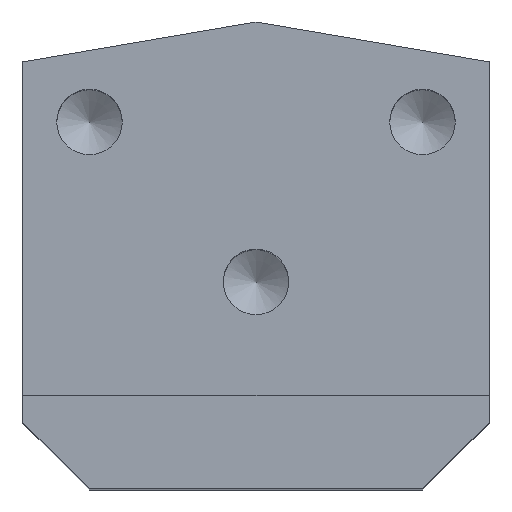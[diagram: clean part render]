
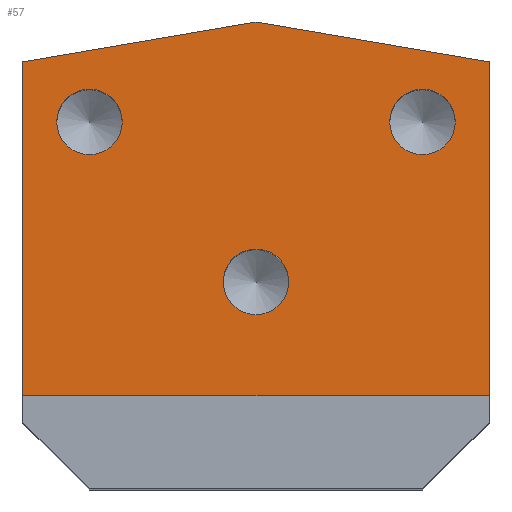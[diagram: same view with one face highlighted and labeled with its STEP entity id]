
A CAD part, top view. The second image highlights one B-rep face of the part: STEP entity #57.
In plain terms, the highlighted planar face has unit normal (0, 0, 1).
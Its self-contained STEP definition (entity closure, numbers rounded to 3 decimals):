
#57 = ADVANCED_FACE( '', ( #125, #126, #127, #128 ), #129, .T. );
#125 = FACE_OUTER_BOUND( '', #210, .T. );
#126 = FACE_BOUND( '', #211, .T. );
#127 = FACE_BOUND( '', #212, .T. );
#128 = FACE_BOUND( '', #213, .T. );
#129 = PLANE( '', #214 );
#210 = EDGE_LOOP( '', ( #314, #315, #316, #317, #318 ) );
#211 = EDGE_LOOP( '', ( #319 ) );
#212 = EDGE_LOOP( '', ( #320 ) );
#213 = EDGE_LOOP( '', ( #321 ) );
#214 = AXIS2_PLACEMENT_3D( '', #322, #323, #324 );
#314 = ORIENTED_EDGE( '', *, *, #459, .T. );
#315 = ORIENTED_EDGE( '', *, *, #460, .T. );
#316 = ORIENTED_EDGE( '', *, *, #434, .T. );
#317 = ORIENTED_EDGE( '', *, *, #461, .F. );
#318 = ORIENTED_EDGE( '', *, *, #448, .T. );
#319 = ORIENTED_EDGE( '', *, *, #457, .T. );
#320 = ORIENTED_EDGE( '', *, *, #462, .T. );
#321 = ORIENTED_EDGE( '', *, *, #463, .T. );
#322 = CARTESIAN_POINT( '', ( 0., 5., 73. ) );
#323 = DIRECTION( '', ( 0., 0., 1. ) );
#324 = DIRECTION( '', ( 1., 0., 0. ) );
#434 = EDGE_CURVE( '', #497, #498, #499, .T. );
#448 = EDGE_CURVE( '', #524, #522, #525, .T. );
#457 = EDGE_CURVE( '', #537, #537, #538, .T. );
#459 = EDGE_CURVE( '', #522, #540, #541, .F. );
#460 = EDGE_CURVE( '', #540, #497, #542, .F. );
#461 = EDGE_CURVE( '', #524, #498, #543, .T. );
#462 = EDGE_CURVE( '', #544, #544, #545, .T. );
#463 = EDGE_CURVE( '', #546, #546, #547, .T. );
#497 = VERTEX_POINT( '', #583 );
#498 = VERTEX_POINT( '', #584 );
#499 = LINE( '', #585, #586 );
#522 = VERTEX_POINT( '', #619 );
#524 = VERTEX_POINT( '', #622 );
#525 = LINE( '', #623, #624 );
#537 = VERTEX_POINT( '', #639 );
#538 = CIRCLE( '', #640, 2.459 );
#540 = VERTEX_POINT( '', #642 );
#541 = LINE( '', #643, #644 );
#542 = LINE( '', #645, #646 );
#543 = LINE( '', #647, #648 );
#544 = VERTEX_POINT( '', #649 );
#545 = CIRCLE( '', #650, 2.459 );
#546 = VERTEX_POINT( '', #651 );
#547 = CIRCLE( '', #652, 2.459 );
#583 = CARTESIAN_POINT( '', ( 0., 37., 73. ) );
#584 = CARTESIAN_POINT( '', ( 0., 12., 73. ) );
#585 = CARTESIAN_POINT( '', ( 0., 40., 73. ) );
#586 = VECTOR( '', #695, 1000. );
#619 = CARTESIAN_POINT( '', ( 35., 37., 73. ) );
#622 = CARTESIAN_POINT( '', ( 35., 12., 73. ) );
#623 = CARTESIAN_POINT( '', ( 35., 5., 73. ) );
#624 = VECTOR( '', #707, 1000. );
#639 = CARTESIAN_POINT( '', ( 17.5, 18.042, 73. ) );
#640 = AXIS2_PLACEMENT_3D( '', #717, #718, #719 );
#642 = CARTESIAN_POINT( '', ( 17.5, 40., 73. ) );
#643 = CARTESIAN_POINT( '', ( 6.328, 41.915, 73. ) );
#644 = VECTOR( '', #720, 1000. );
#645 = CARTESIAN_POINT( '', ( -5.329, 36.086, 73. ) );
#646 = VECTOR( '', #721, 1000. );
#647 = CARTESIAN_POINT( '', ( 88.199, 12., 73. ) );
#648 = VECTOR( '', #722, 1000. );
#649 = CARTESIAN_POINT( '', ( 5., 30.042, 73. ) );
#650 = AXIS2_PLACEMENT_3D( '', #723, #724, #725 );
#651 = CARTESIAN_POINT( '', ( 30., 30.042, 73. ) );
#652 = AXIS2_PLACEMENT_3D( '', #726, #727, #728 );
#695 = DIRECTION( '', ( 0., -1., 0. ) );
#707 = DIRECTION( '', ( 0., 1., 0. ) );
#717 = CARTESIAN_POINT( '', ( 17.5, 20.5, 73. ) );
#718 = DIRECTION( '', ( 0., 0., -1. ) );
#719 = DIRECTION( '', ( 0., -1., 0. ) );
#720 = DIRECTION( '', ( 0.986, -0.169, 0. ) );
#721 = DIRECTION( '', ( 0.986, 0.169, 0. ) );
#722 = DIRECTION( '', ( -1., 0., 0. ) );
#723 = CARTESIAN_POINT( '', ( 5., 32.5, 73. ) );
#724 = DIRECTION( '', ( 0., 0., -1. ) );
#725 = DIRECTION( '', ( 0., -1., 0. ) );
#726 = CARTESIAN_POINT( '', ( 30., 32.5, 73. ) );
#727 = DIRECTION( '', ( 0., 0., -1. ) );
#728 = DIRECTION( '', ( 0., -1., 0. ) );
